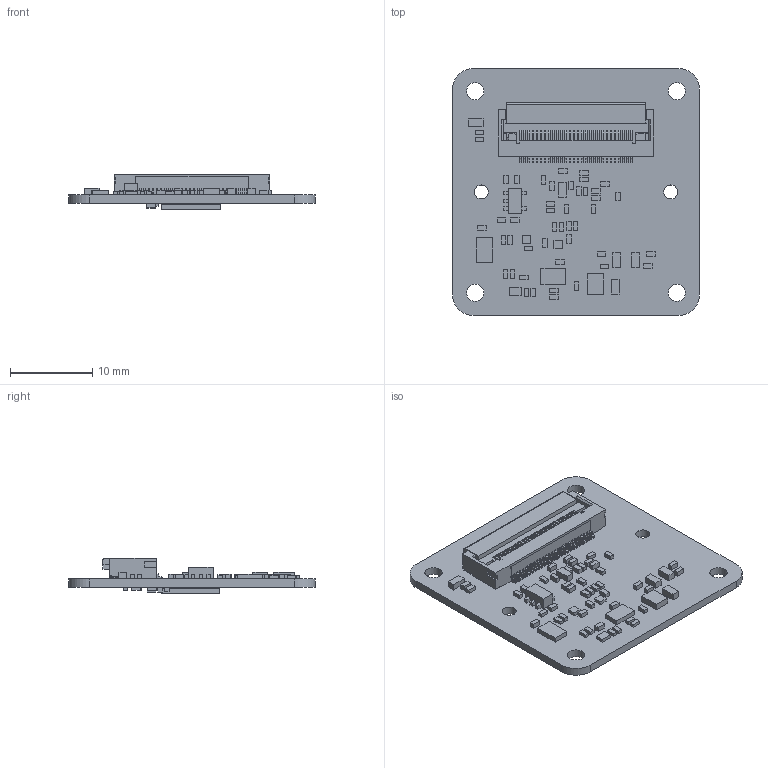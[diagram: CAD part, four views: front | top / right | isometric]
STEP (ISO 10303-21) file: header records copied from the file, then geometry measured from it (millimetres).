
FILE_DESCRIPTION(/* description */ ('289-20-0-03-00-a'),/* implementation_level */ '2;1');
FILE_NAME(/* name */ 'D:\HiDrive\1_Konstruktion\1_KUNDEN\TIS\289-20_MIPI-Dokumentation\KundenStepModell (KSM)\289-20-0_MIPI-MX-Modul (Sensorboard)\289-20-0-03-00-a_MX_IMX335-R110.stp',/* time_stamp */ '2020-12-16T22:03:32+01:00',/* author */ ('Westermann'),/* organization */ ('TIS, Bremen-Germany'),/* preprocessor_version */ 'ST-DEVELOPER v16.5',/* originating_system */ 'Autodesk Inventor 2017',/* authorisation */ '6767,5 mm^3');
FILE_SCHEMA (('AUTOMOTIVE_DESIGN { 1 0 10303 214 3 1 1 }'));
Length unit declared in the file: millimetre
Products named in the file (1): 289-20-0-03-00-a_MX_IMX335-R110
Bounding box: 30.01 x 30 x 4.28 mm (x, y, z)
Volume: 1177.3 mm3; surface area: 2590.6 mm2
Topology: 2 solids, 2 shells, 1313 faces, 3800 edges, 2529 vertices
Faces by surface type: plane 1119, cylinder 194
Full cylindrical faces by diameter (mm): 1.7 x2, 2.1 x4
Entity records: 44246 total; most frequent: CARTESIAN_POINT 7637, ORIENTED_EDGE 7588, DIRECTION 6811, EDGE_CURVE 3794, LINE 3405, VECTOR 3405, VERTEX_POINT 2529, AXIS2_PLACEMENT_3D 1703
